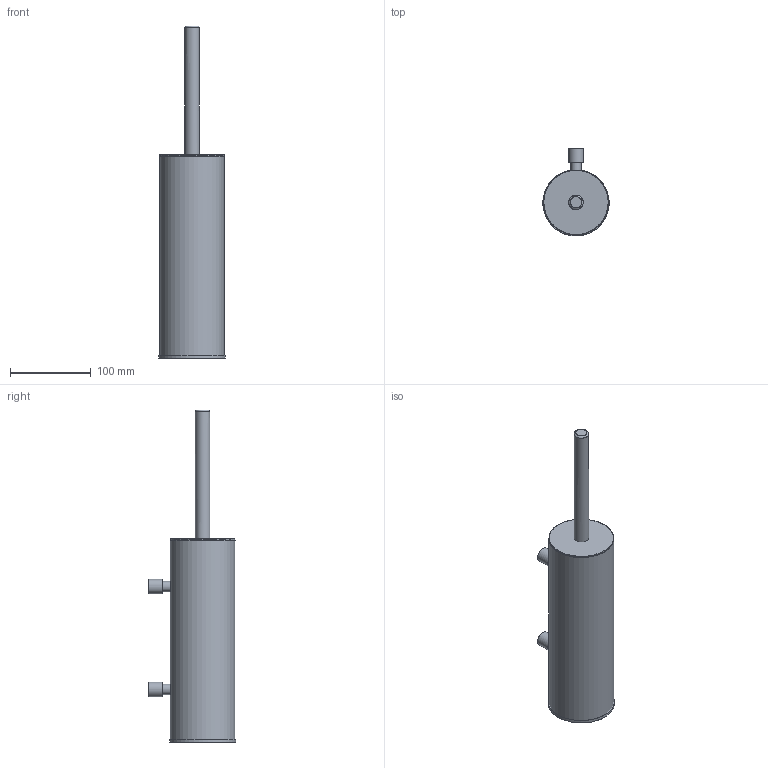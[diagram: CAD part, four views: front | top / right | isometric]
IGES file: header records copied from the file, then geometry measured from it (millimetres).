
Global section: file name: /Users/f/Desktop/I'/TR221.igs; native system: Rhinoceros ( Jul 22 2010 ); preprocessor: Trout Lake IGES 012 Jul 22 2010; date: 100730.072518; units: millimetre
Bounding box: 82 x 108.51 x 411 mm (x, y, z)
Surface area: 108801.2 mm2 (no closed solid volume)
Topology: 0 solids, 0 shells, 27 faces, 180 edges, 172 vertices
Faces by surface type: bspline 27
